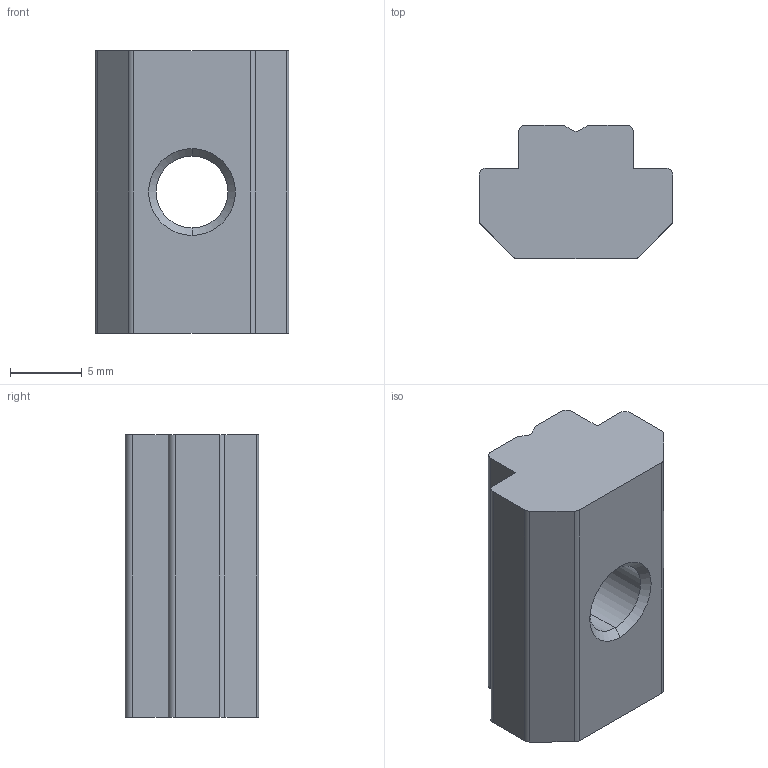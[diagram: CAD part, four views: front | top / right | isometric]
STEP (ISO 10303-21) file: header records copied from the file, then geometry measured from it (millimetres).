
FILE_DESCRIPTION (( 'STEP AP214' ), '1' );
FILE_NAME ('1.2130 T-uramutteri M6C.STEP', '2025-09-05T10:35:05', ( '' ), ( '' ), 'SwSTEP 2.0', 'SolidWorks 2025', '' );
FILE_SCHEMA (( 'AUTOMOTIVE_DESIGN' ));
Length unit declared in the file: millimetre
Products named in the file (1): 1.2130 T-uramutteri M6C
Bounding box: 13.5 x 9.3 x 19.7 mm (x, y, z)
Volume: 1827.1 mm3; surface area: 1126.6 mm2
Topology: 1 solids, 1 shells, 37 faces, 104 edges, 68 vertices
Faces by surface type: plane 17, cylinder 16, cone 4
Entity records: 1231 total; most frequent: CARTESIAN_POINT 246, ORIENTED_EDGE 208, DIRECTION 198, EDGE_CURVE 104, AXIS2_PLACEMENT_3D 68, VERTEX_POINT 68, LINE 62, VECTOR 62
